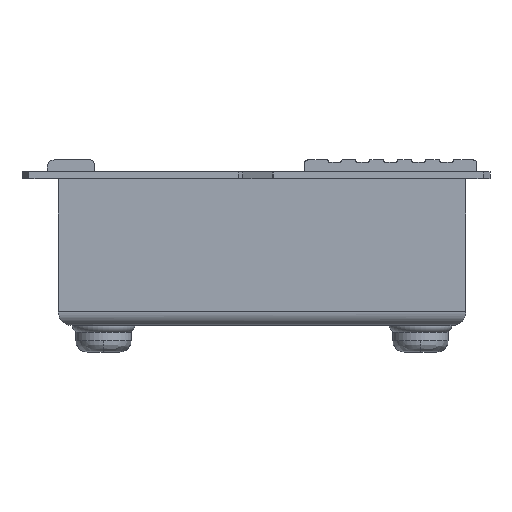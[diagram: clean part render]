
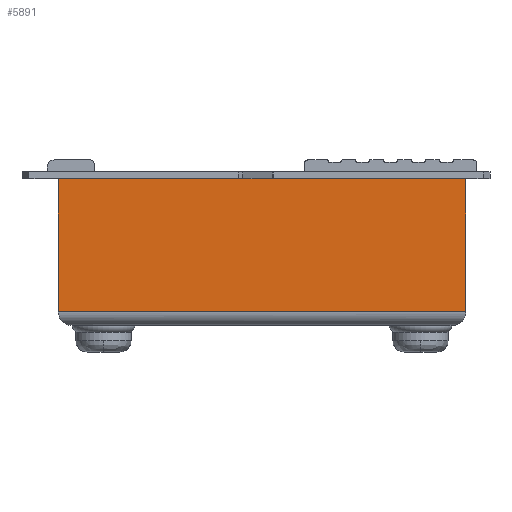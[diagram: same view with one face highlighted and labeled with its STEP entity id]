
A CAD part, front view. The second image highlights one B-rep face of the part: STEP entity #5891.
In plain terms, the highlighted planar face has unit normal (0, -1, 0).
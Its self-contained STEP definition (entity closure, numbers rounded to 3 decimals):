
#164 = CARTESIAN_POINT ( 'NONE',  ( -29.2, -42.1, -8.5 ) ) ;
#272 = ORIENTED_EDGE ( 'NONE', *, *, #8459, .T. ) ;
#356 = VERTEX_POINT ( 'NONE', #7147 ) ;
#631 = CARTESIAN_POINT ( 'NONE',  ( -29.2, -42.1, 10.5 ) ) ;
#1421 = ORIENTED_EDGE ( 'NONE', *, *, #6935, .T. ) ;
#1587 = LINE ( 'NONE', #2225, #7257 ) ;
#2018 = EDGE_LOOP ( 'NONE', ( #272, #1421, #7489, #9256 ) ) ;
#2127 = DIRECTION ( 'NONE',  ( 1., 0., 0. ) ) ;
#2131 = AXIS2_PLACEMENT_3D ( 'NONE', #631, #3639, #8853 ) ;
#2225 = CARTESIAN_POINT ( 'NONE',  ( -29.2, -42.1, 10.5 ) ) ;
#2818 = VECTOR ( 'NONE', #3196, 1000. ) ;
#3196 = DIRECTION ( 'NONE',  ( 0., 0., -1. ) ) ;
#3345 = EDGE_CURVE ( 'NONE', #4444, #6724, #8918, .T. ) ;
#3542 = EDGE_CURVE ( 'NONE', #356, #4444, #1587, .T. ) ;
#3639 = DIRECTION ( 'NONE',  ( 0., 1., 0. ) ) ;
#4354 = LINE ( 'NONE', #6582, #8321 ) ;
#4444 = VERTEX_POINT ( 'NONE', #7826 ) ;
#4939 = VECTOR ( 'NONE', #4975, 1000. ) ;
#4975 = DIRECTION ( 'NONE',  ( 0., 0., -1. ) ) ;
#5258 = VERTEX_POINT ( 'NONE', #164 ) ;
#5881 = FACE_OUTER_BOUND ( 'NONE', #2018, .T. ) ;
#5891 = ADVANCED_FACE ( 'NONE', ( #5881 ), #7305, .F. ) ;
#6304 = CARTESIAN_POINT ( 'NONE',  ( 29.2, -42.1, -8.5 ) ) ;
#6582 = CARTESIAN_POINT ( 'NONE',  ( 29.2, -42.1, -8.5 ) ) ;
#6724 = VERTEX_POINT ( 'NONE', #6304 ) ;
#6935 = EDGE_CURVE ( 'NONE', #5258, #6724, #4354, .T. ) ;
#7147 = CARTESIAN_POINT ( 'NONE',  ( -29.2, -42.1, 10.5 ) ) ;
#7257 = VECTOR ( 'NONE', #8167, 1000. ) ;
#7305 = PLANE ( 'NONE',  #2131 ) ;
#7489 = ORIENTED_EDGE ( 'NONE', *, *, #3345, .F. ) ;
#7659 = CARTESIAN_POINT ( 'NONE',  ( -29.2, -42.1, 10.5 ) ) ;
#7826 = CARTESIAN_POINT ( 'NONE',  ( 29.2, -42.1, 10.5 ) ) ;
#8167 = DIRECTION ( 'NONE',  ( 1., 0., 0. ) ) ;
#8321 = VECTOR ( 'NONE', #2127, 1000. ) ;
#8459 = EDGE_CURVE ( 'NONE', #356, #5258, #8531, .T. ) ;
#8531 = LINE ( 'NONE', #7659, #2818 ) ;
#8853 = DIRECTION ( 'NONE',  ( 0., 0., 1. ) ) ;
#8918 = LINE ( 'NONE', #9451, #4939 ) ;
#9256 = ORIENTED_EDGE ( 'NONE', *, *, #3542, .F. ) ;
#9451 = CARTESIAN_POINT ( 'NONE',  ( 29.2, -42.1, 10.5 ) ) ;
